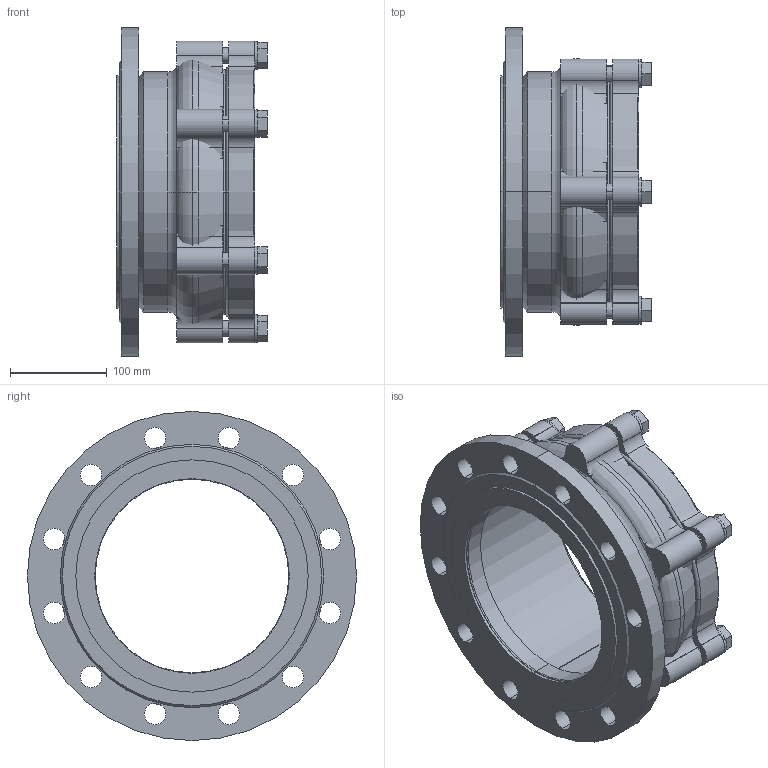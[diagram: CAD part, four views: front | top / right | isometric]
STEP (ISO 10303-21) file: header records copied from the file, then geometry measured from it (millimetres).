
FILE_DESCRIPTION(('STEP AP214'),'1');
FILE_NAME('S:/EK/USER/CAT6/3DHomepage_27-04-2012/VDI-Rohrsysteme_und_Stahlrohre/0400_(7200)/0400_PN16_DN200_225.STP','2013-01-28T10:18:44',(' '),(' '),'Spatial InterOp 3D',' ',' ');
FILE_SCHEMA(('automotive_design'));
Length unit declared in the file: millimetre
Products named in the file (36): 3D-Objekt
Bounding box: 156 x 340 x 340 mm (x, y, z)
Volume: 3240832.4 mm3; surface area: 798202.6 mm2
Topology: 36 solids, 36 shells, 297 faces, 668 edges, 444 vertices
Faces by surface type: plane 157, cylinder 122, torus 12, cone 6
Entity records: 11656 total; most frequent: DIRECTION 1622, CARTESIAN_POINT 1445, ORIENTED_EDGE 1336, EDGE_CURVE 668, AXIS2_PLACEMENT_3D 621, VERTEX_POINT 444, LINE 380, VECTOR 380
